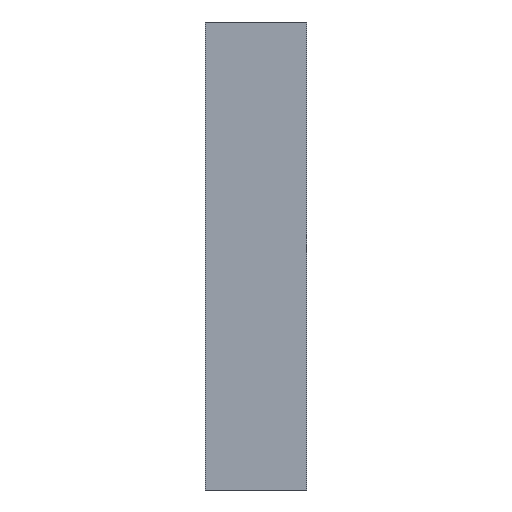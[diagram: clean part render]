
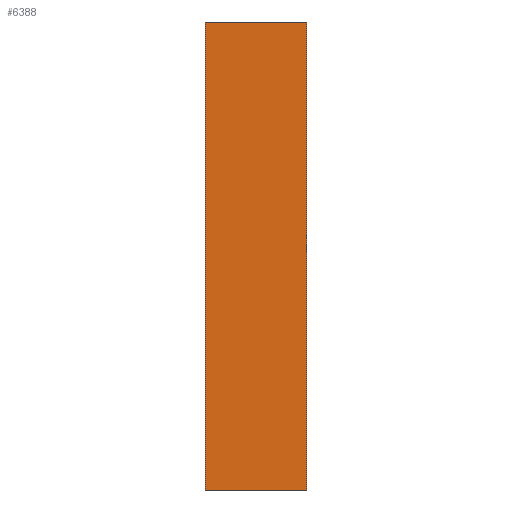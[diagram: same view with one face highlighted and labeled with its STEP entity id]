
A CAD part, left-side view. The second image highlights one B-rep face of the part: STEP entity #6388.
In plain terms, the highlighted planar face has unit normal (-1, 0, 0).
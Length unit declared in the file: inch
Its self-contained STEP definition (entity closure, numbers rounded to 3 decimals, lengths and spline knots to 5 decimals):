
#310 = DIRECTION ( 'NONE',  ( 0., 0., -1. ) ) ;
#742 = VECTOR ( 'NONE', #20147, 39.37008 ) ;
#3026 = AXIS2_PLACEMENT_3D ( 'NONE', #33664, #28066, #11027 ) ;
#3535 = VERTEX_POINT ( 'NONE', #10882 ) ;
#3662 = VECTOR ( 'NONE', #310, 39.37008 ) ;
#3724 = ORIENTED_EDGE ( 'NONE', *, *, #7556, .F. ) ;
#6388 = ADVANCED_FACE ( 'NONE', ( #7772 ), #25209, .T. ) ;
#7556 = EDGE_CURVE ( 'NONE', #33712, #3535, #14794, .T. ) ;
#7654 = EDGE_CURVE ( 'NONE', #33712, #27133, #11238, .T. ) ;
#7772 = FACE_OUTER_BOUND ( 'NONE', #30586, .T. ) ;
#8361 = LINE ( 'NONE', #28721, #742 ) ;
#9611 = CARTESIAN_POINT ( 'NONE',  ( -11.51987, 0., -8.98487 ) ) ;
#10882 = CARTESIAN_POINT ( 'NONE',  ( -11.51987, 0., 8.98487 ) ) ;
#11027 = DIRECTION ( 'NONE',  ( 0., 0., 1. ) ) ;
#11238 = LINE ( 'NONE', #17398, #3662 ) ;
#13042 = CARTESIAN_POINT ( 'NONE',  ( -11.51987, 0., 8.98487 ) ) ;
#14295 = LINE ( 'NONE', #13042, #21030 ) ;
#14794 = LINE ( 'NONE', #19761, #35758 ) ;
#17398 = CARTESIAN_POINT ( 'NONE',  ( -11.51987, 3.9, 8.98487 ) ) ;
#18091 = EDGE_CURVE ( 'NONE', #3535, #33269, #14295, .T. ) ;
#18505 = ORIENTED_EDGE ( 'NONE', *, *, #18091, .F. ) ;
#19379 = ORIENTED_EDGE ( 'NONE', *, *, #7654, .T. ) ;
#19761 = CARTESIAN_POINT ( 'NONE',  ( -11.51987, 3.9, 8.98487 ) ) ;
#20147 = DIRECTION ( 'NONE',  ( 0., -1., 0. ) ) ;
#21030 = VECTOR ( 'NONE', #30066, 39.37008 ) ;
#22715 = ORIENTED_EDGE ( 'NONE', *, *, #23964, .T. ) ;
#23964 = EDGE_CURVE ( 'NONE', #27133, #33269, #8361, .T. ) ;
#25209 = PLANE ( 'NONE',  #3026 ) ;
#27133 = VERTEX_POINT ( 'NONE', #28937 ) ;
#28066 = DIRECTION ( 'NONE',  ( -1., 0., 0. ) ) ;
#28344 = DIRECTION ( 'NONE',  ( 0., -1., 0. ) ) ;
#28721 = CARTESIAN_POINT ( 'NONE',  ( -11.51987, 3.9, -8.98487 ) ) ;
#28937 = CARTESIAN_POINT ( 'NONE',  ( -11.51987, 3.9, -8.98487 ) ) ;
#30066 = DIRECTION ( 'NONE',  ( 0., 0., -1. ) ) ;
#30586 = EDGE_LOOP ( 'NONE', ( #18505, #3724, #19379, #22715 ) ) ;
#33269 = VERTEX_POINT ( 'NONE', #9611 ) ;
#33317 = CARTESIAN_POINT ( 'NONE',  ( -11.51987, 3.9, 8.98487 ) ) ;
#33664 = CARTESIAN_POINT ( 'NONE',  ( -11.51987, 3.9, 8.98487 ) ) ;
#33712 = VERTEX_POINT ( 'NONE', #33317 ) ;
#35758 = VECTOR ( 'NONE', #28344, 39.37008 ) ;
